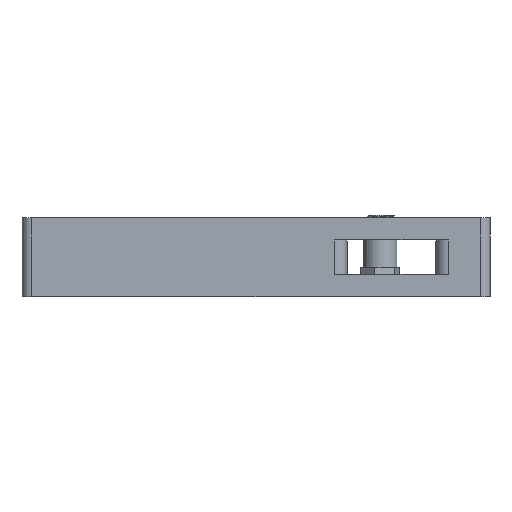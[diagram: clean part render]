
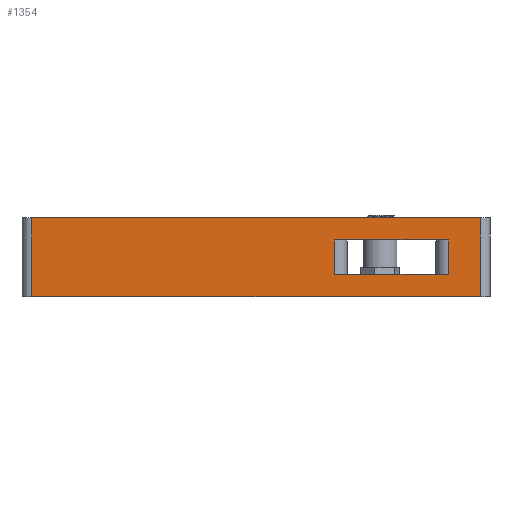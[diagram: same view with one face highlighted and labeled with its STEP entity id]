
A CAD part, left-side view. The second image highlights one B-rep face of the part: STEP entity #1354.
In plain terms, the highlighted planar face has unit normal (-1, 0, 0).
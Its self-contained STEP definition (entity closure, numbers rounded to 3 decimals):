
#27=FACE_BOUND('',#172,.T.);
#39=PLANE('',#1472);
#90=FACE_OUTER_BOUND('',#171,.T.);
#171=EDGE_LOOP('',(#1047,#1048,#1049,#1050));
#172=EDGE_LOOP('',(#1051,#1052,#1053,#1054));
#329=LINE('',#2176,#436);
#334=LINE('',#2191,#441);
#341=LINE('',#2216,#448);
#348=LINE('',#2934,#455);
#365=LINE('',#2986,#472);
#367=LINE('',#2992,#474);
#368=LINE('',#2995,#475);
#369=LINE('',#2996,#476);
#436=VECTOR('',#1579,10.);
#441=VECTOR('',#1592,10.);
#448=VECTOR('',#1619,10.);
#455=VECTOR('',#1642,10.);
#472=VECTOR('',#1687,10.);
#474=VECTOR('',#1693,10.);
#475=VECTOR('',#1696,10.);
#476=VECTOR('',#1697,10.);
#559=VERTEX_POINT('',#2169);
#562=VERTEX_POINT('',#2174);
#565=VERTEX_POINT('',#2184);
#568=VERTEX_POINT('',#2189);
#583=VERTEX_POINT('',#2931);
#584=VERTEX_POINT('',#2933);
#606=VERTEX_POINT('',#2988);
#608=VERTEX_POINT('',#2994);
#703=EDGE_CURVE('',#562,#559,#329,.T.);
#710=EDGE_CURVE('',#568,#565,#334,.T.);
#722=EDGE_CURVE('',#562,#565,#341,.T.);
#740=EDGE_CURVE('',#583,#584,#348,.T.);
#767=EDGE_CURVE('',#568,#559,#365,.T.);
#770=EDGE_CURVE('',#584,#606,#367,.T.);
#771=EDGE_CURVE('',#608,#583,#368,.T.);
#772=EDGE_CURVE('',#606,#608,#369,.T.);
#1047=ORIENTED_EDGE('',*,*,#770,.F.);
#1048=ORIENTED_EDGE('',*,*,#740,.F.);
#1049=ORIENTED_EDGE('',*,*,#771,.F.);
#1050=ORIENTED_EDGE('',*,*,#772,.F.);
#1051=ORIENTED_EDGE('',*,*,#722,.T.);
#1052=ORIENTED_EDGE('',*,*,#710,.F.);
#1053=ORIENTED_EDGE('',*,*,#767,.T.);
#1054=ORIENTED_EDGE('',*,*,#703,.F.);
#1354=ADVANCED_FACE('',(#90,#27),#39,.T.);
#1472=AXIS2_PLACEMENT_3D('',#2993,#1694,#1695);
#1579=DIRECTION('',(0.,0.,1.));
#1592=DIRECTION('',(0.,0.,-1.));
#1619=DIRECTION('',(0.,1.,0.));
#1642=DIRECTION('',(0.,1.,0.));
#1687=DIRECTION('',(0.,-1.,0.));
#1693=DIRECTION('',(0.,0.,1.));
#1694=DIRECTION('center_axis',(-1.,0.,0.));
#1695=DIRECTION('ref_axis',(0.,-1.,0.));
#1696=DIRECTION('',(0.,0.,-1.));
#1697=DIRECTION('',(0.,-1.,0.));
#2169=CARTESIAN_POINT('',(0.,-86.5,11.5));
#2174=CARTESIAN_POINT('',(0.,-86.5,4.5));
#2176=CARTESIAN_POINT('',(0.,-86.5,2.25));
#2184=CARTESIAN_POINT('',(0.,-63.5,4.5));
#2189=CARTESIAN_POINT('',(0.,-63.5,11.5));
#2191=CARTESIAN_POINT('',(0.,-63.5,5.75));
#2216=CARTESIAN_POINT('',(0.,-33.,4.5));
#2931=CARTESIAN_POINT('',(0.,-93.,0.));
#2933=CARTESIAN_POINT('',(0.,-2.,0.));
#2934=CARTESIAN_POINT('',(0.,-95.,0.));
#2986=CARTESIAN_POINT('',(0.,-42.,11.5));
#2988=CARTESIAN_POINT('',(0.,-2.,16.));
#2992=CARTESIAN_POINT('',(0.,-2.,0.));
#2993=CARTESIAN_POINT('Origin',(0.,0.,0.));
#2994=CARTESIAN_POINT('',(0.,-93.,16.));
#2995=CARTESIAN_POINT('',(0.,-93.,0.));
#2996=CARTESIAN_POINT('',(0.,-95.,16.));
